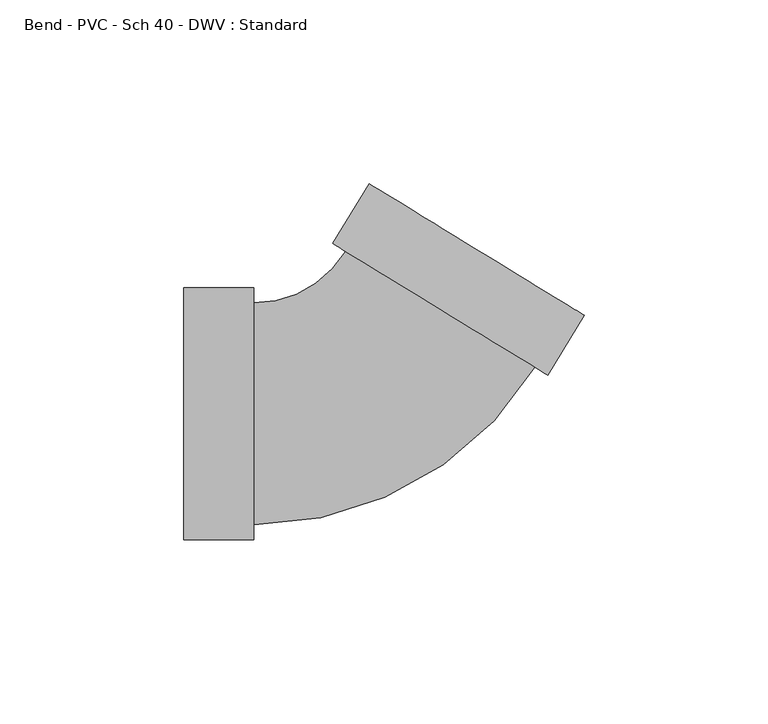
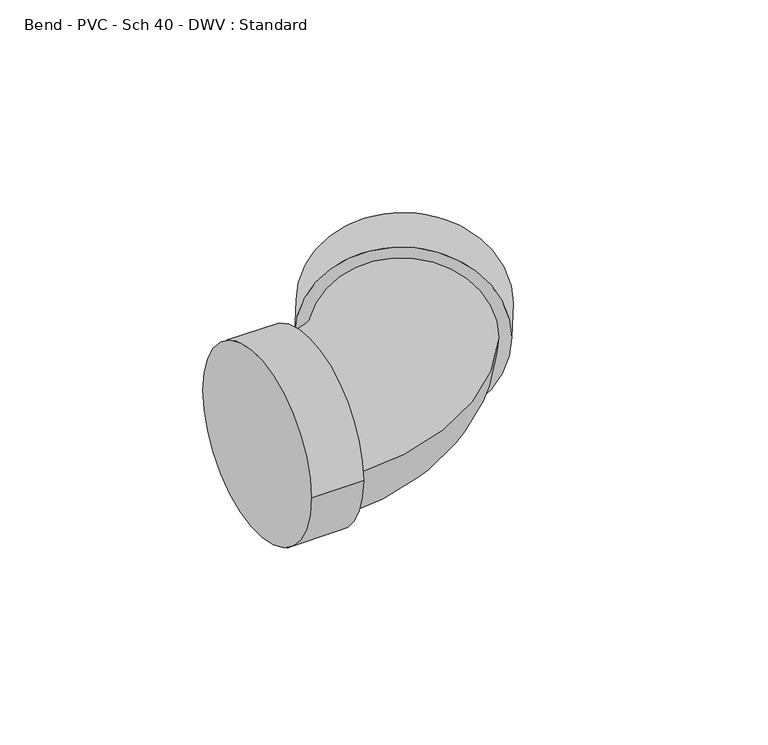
"""IFC4 building model written with IfcOpenShell, lengths in millimetres: pipe fitting geometry, Bend - PVC - Sch 40 - DWV : Standard."""

from ifc_helpers import new_model, si_unit, point, frame, origin, place, context, project, spatial, circle_curve, ellipse_curve, trimmed, source, transform, mapped, element, save
from ifc_brep_helpers import plane_surface, cylinder_surface, revolved_surface, advanced_brep


def bend_pvc_sch_40_dwv_standard_d8414b2c(model_context):
    return source(origin(), model_context, "Body", "AdvancedBrep", [
        advanced_brep(
        [(-52.4002, -34.3154, 0.0), (-52.4002, 34.3154, 0.0), (-33.3502, -34.3154, 0.0), (-33.3502, 34.3154, 0.0), (-33.3502, -30.1625, 0.0), (-33.3502, 30.1625, 0.0), (-8.3342675, 44.1876932, 0.0), (43.1311411, 12.7167965, 0.0), (46.6741282, 10.5502737, 0.0), (-11.8772546, 46.354216, 0.0), (56.6123061, 26.802508, 0.0), (-1.9390766, 62.6064503, 0.0)],
        [
            (0, 1, circle_curve(frame((-52.4002, 0.0, 0.0), z_axis=(-1.0, 0.0, 0.0), x_axis=(0.0, 1.0, 0.0)), 34.3154)),
            (1, 0, circle_curve(frame((-52.4002, 0.0, 0.0), z_axis=(-1.0, 0.0, 0.0), x_axis=(0.0, 1.0, 0.0)), 34.3154)),
            (2, 3, circle_curve(frame((-33.3502, 0.0, 0.0), z_axis=(1.0, 0.0, 0.0), x_axis=(0.0, 1.0, 0.0)), 34.3154)),
            (3, 2, circle_curve(frame((-33.3502, 0.0, 0.0), z_axis=(1.0, 0.0, 0.0), x_axis=(0.0, 1.0, 0.0)), 34.3154)),
            (4, 5, circle_curve(frame((-33.3502, 0.0, 0.0), z_axis=(-1.0, 0.0, 0.0), x_axis=(0.0, 1.0, 0.0)), 30.1625)),
            (5, 4, circle_curve(frame((-33.3502, 0.0, 0.0), z_axis=(-1.0, 0.0, 0.0), x_axis=(0.0, 1.0, 0.0)), 30.1625)),
            (0, 2),
            (3, 1),
            (6, 5, circle_curve(frame((-33.3502, 59.4848384, 0.0), z_axis=(0.0, 0.0, -1.0), x_axis=(0.0, -1.0, 0.0)), 29.3223384)),
            (4, 7, circle_curve(frame((-33.3502, 59.4848384, 0.0), z_axis=(0.0, 0.0, 1.0), x_axis=(0.0, -1.0, 0.0)), 89.6473384)),
            (7, 6, circle_curve(frame((17.3984368, 28.4522448, 0.0), z_axis=(-0.5216891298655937, -0.8531356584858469, 0.0), x_axis=(-0.8531356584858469, 0.5216891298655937, 0.0)), 30.1625)),
            (6, 7, circle_curve(frame((17.3984368, 28.4522448, 0.0), z_axis=(-0.5216891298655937, -0.8531356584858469, 0.0), x_axis=(-0.8531356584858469, 0.5216891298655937, 0.0)), 30.1625)),
            (8, 9, circle_curve(frame((17.3984368, 28.4522448, 0.0), z_axis=(-0.5216891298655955, -0.853135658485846, 0.0), x_axis=(-0.853135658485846, 0.5216891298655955, 0.0)), 34.3154)),
            (9, 8, circle_curve(frame((17.3984368, 28.4522448, 0.0), z_axis=(-0.5216891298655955, -0.853135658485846, 0.0), x_axis=(-0.853135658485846, 0.5216891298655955, 0.0)), 34.3154)),
            (10, 11, circle_curve(frame((27.3366147, 44.7044791, 0.0), z_axis=(0.5216891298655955, 0.853135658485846, 0.0), x_axis=(-0.853135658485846, 0.5216891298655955, 0.0)), 34.3154)),
            (11, 10, circle_curve(frame((27.3366147, 44.7044791, 0.0), z_axis=(0.5216891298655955, 0.853135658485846, 0.0), x_axis=(-0.853135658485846, 0.5216891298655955, 0.0)), 34.3154)),
            (8, 10),
            (11, 9),
        ],
        [
            plane_surface(frame((-52.4002, 0.0, 0.0), z_axis=(-1.0, 0.0, 0.0), x_axis=(0.0, 0.0, 1.0))),
            plane_surface(frame((-33.3502, 0.0, 0.0), z_axis=(1.0, 0.0, 0.0), x_axis=(0.0, 0.0, 1.0))),
            cylinder_surface(frame((-52.4002, 0.0, 0.0), z_axis=(-1.0, 0.0, 0.0), x_axis=(0.0, 1.0, 0.0)), 34.3154),
            revolved_surface(trimmed(ellipse_curve(frame((-33.3502, 0.0, 0.0), z_axis=(-1.0, 0.0, 0.0), x_axis=(0.0, 1.0, 0.0)), 30.1625, 30.1625), [point((-33.3502, -30.1625, 0.0))], [point((-33.3502, 30.1625, 0.0))], True, "CARTESIAN"), (-33.3502, 59.4848384, 0.0), (0.0, 0.0, 1.0)),
            revolved_surface(trimmed(ellipse_curve(frame((-33.3502, 0.0, 0.0), z_axis=(-1.0, 0.0, 0.0), x_axis=(0.0, 1.0, 0.0)), 30.1625, 30.1625), [point((-33.3502, 30.1625, 0.0))], [point((-33.3502, -30.1625, 0.0))], True, "CARTESIAN"), (-33.3502, 59.4848384, 0.0), (0.0, 0.0, 1.0)),
            plane_surface(frame((17.3984368, 28.4522448, 0.0), z_axis=(-0.5216891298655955, -0.853135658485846, 0.0), x_axis=(0.0, 0.0, 1.0))),
            plane_surface(frame((27.3366147, 44.7044791, 0.0), z_axis=(0.5216891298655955, 0.853135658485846, 0.0), x_axis=(0.0, 0.0, 1.0))),
            cylinder_surface(frame((17.3984368, 28.4522448, 0.0), z_axis=(-0.5216891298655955, -0.853135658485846, 0.0), x_axis=(-0.853135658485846, 0.5216891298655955, 0.0)), 34.3154),
        ],
        [
            (0, [[1, 2]]),
            (1, [[3, 4], [5, 6]]),
            (2, [[-1, 7, -4, 8]]),
            (2, [[-2, -8, -3, -7]]),
            (3, [[9, -5, 10, 11]]),
            (4, [[-9, 12, -10, -6]]),
            (5, [[13, 14], [-11, -12]]),
            (6, [[15, 16]]),
            (7, [[-13, 17, -16, 18]]),
            (7, [[-14, -18, -15, -17]]),
        ],
    ),
    ])


if __name__ == "__main__":
    model = new_model("IFC4")
    model_context = context("Model", 3, world=origin())
    ifc_project = project(units=[si_unit("LENGTHUNIT", "METRE", prefix="MILLI")], contexts=[model_context])
    site = spatial("IfcSite", under=ifc_project)
    building = spatial("IfcBuilding", under=site)
    placement = place(None, origin())
    bend_pvc_sch_40_dwv_standard_shape = bend_pvc_sch_40_dwv_standard_d8414b2c(model_context)
    element("IfcPipeFitting", 1, ObjectType="Bend - PVC - Sch 40 - DWV : Standard", at=placement, inside=building, context=model_context, shape_type="MappedRepresentation", body=[
        mapped(bend_pvc_sch_40_dwv_standard_shape, transform((0.0, 0.0, 0.0), x_axis=(1.0, 0.0, 0.0), y_axis=(0.0, 1.0, 0.0), z_axis=(0.0, 0.0, 1.0))),
    ])
    save(model, "model.ifc")
